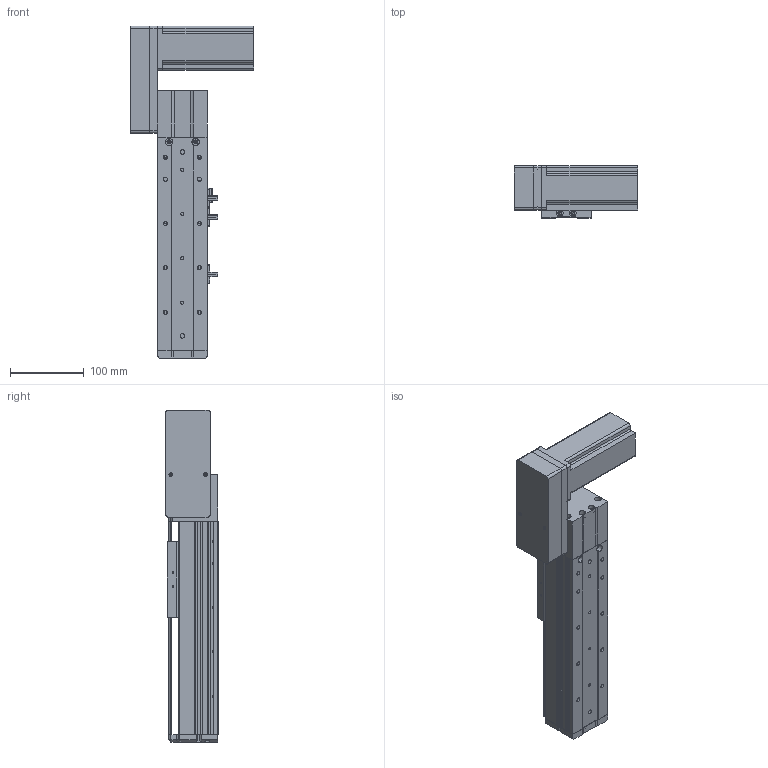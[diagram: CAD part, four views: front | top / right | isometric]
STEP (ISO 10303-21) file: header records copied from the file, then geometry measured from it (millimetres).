
FILE_DESCRIPTION (( 'STEP AP214' ), '1' );
FILE_NAME ('KSD68BS-S100-MRB-CM.STEP', '2019-08-22T05:43:04', ( '微软用户' ), ( '微软中国' ), 'SwSTEP 2.0', 'SolidWorks 2014', '' );
FILE_SCHEMA (( 'AUTOMOTIVE_DESIGN' ));
Length unit declared in the file: millimetre
Products named in the file (11): KSD68BS半封闭同步带传动导轨座; U倰嫖萇EEㄜSX672; 台达ECMA－C20604AS伺服电机（400W); KSD68BS 100俴最菁啣圉猾敕; KSD68BS-S100-MRB-CM; 悵誘欶奻狟殏; 68宽马达安装板连板上折同步带; 68宽单导轨半封闭同步带主动轮座右; 68单导轨同步带半封闭端板; KSD68BS100俴最裔啣圉猾敕; 覜茼え68遵圉猾敕
Assembly tree (12 placements, depth 2):
  KSD68BS-S100-MRB-CM
    KSD68BS 100俴最菁啣圉猾敕
    台达ECMA－C20604AS伺服电机（400W)
    U倰嫖萇EEㄜSX672  x3
    KSD68BS半封闭同步带传动导轨座
    覜茼え68遵圉猾敕
    KSD68BS100俴最裔啣圉猾敕
    68单导轨同步带半封闭端板
    68宽单导轨半封闭同步带主动轮座右
    68宽马达安装板连板上折同步带
    悵誘欶奻狟殏
Bounding box: 167.2 x 70.5 x 449.5 mm (x, y, z)
Volume: 1232728.7 mm3; surface area: 352065.3 mm2
Topology: 13 solids, 13 shells, 1226 faces, 3460 edges, 2244 vertices
Faces by surface type: cylinder 578, plane 565, cone 83
Entity records: 42617 total; most frequent: CARTESIAN_POINT 7706, DIRECTION 5712, ORIENTED_EDGE 5672, EDGE_CURVE 2836, AXIS2_PLACEMENT_3D 2034, VERTEX_POINT 1868, LINE 1644, VECTOR 1644
